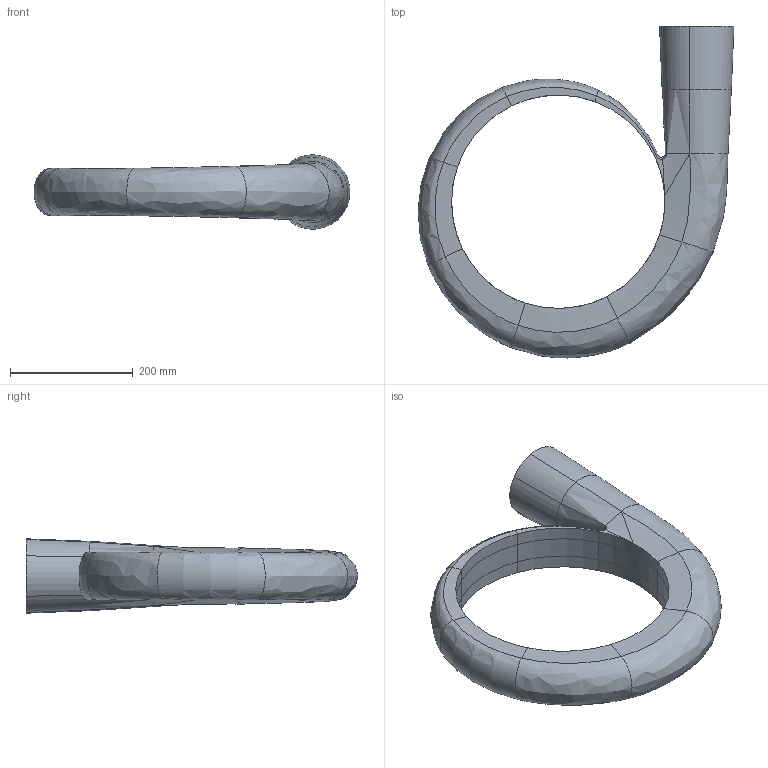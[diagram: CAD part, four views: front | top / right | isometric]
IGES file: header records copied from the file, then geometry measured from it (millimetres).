
Start section: DesignModeler IGES Output Version 5.3
Global section: file name: Obudowa.igs; native system: By Siemens PLM Incorporated; preprocessor: XPlus GENERIC/IGES 17.0.49; author: Administrator; organization:  ; date: 20170403.181239; units: metre
Bounding box: 514.41 x 540.56 x 121.06 mm (x, y, z)
Volume: 7544358.4 mm3; surface area: 396820.7 mm2
Topology: 1 solids, 1 shells, 62 faces, 126 edges, 64 vertices
Faces by surface type: bspline 28, cylinder 24, plane 9, revolution 1
